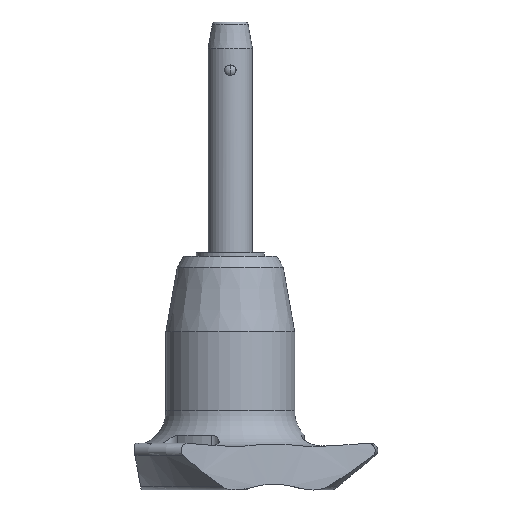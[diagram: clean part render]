
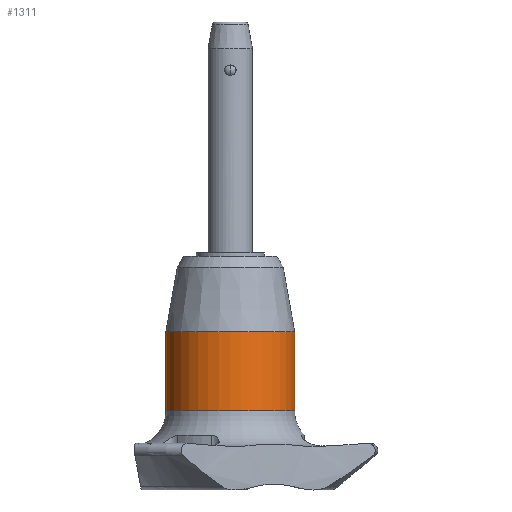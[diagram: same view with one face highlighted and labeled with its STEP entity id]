
A CAD part, front view. The second image highlights one B-rep face of the part: STEP entity #1311.
In plain terms, the highlighted cylindrical face has radius 7.25 mm (diameter 14.5 mm), a partial arc.
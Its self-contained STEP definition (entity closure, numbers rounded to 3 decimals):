
#163 = VERTEX_POINT ( 'NONE', #445 ) ;
#249 = DIRECTION ( 'NONE',  ( -1., 0., 0. ) ) ;
#282 = EDGE_LOOP ( 'NONE', ( #2478, #536, #2099, #1330 ) ) ;
#289 = CARTESIAN_POINT ( 'NONE',  ( -7.25, 0., -37.8 ) ) ;
#445 = CARTESIAN_POINT ( 'NONE',  ( 7.25, 0., -37.8 ) ) ;
#461 = DIRECTION ( 'NONE',  ( 0., 0., -1. ) ) ;
#536 = ORIENTED_EDGE ( 'NONE', *, *, #842, .T. ) ;
#682 = VERTEX_POINT ( 'NONE', #868 ) ;
#690 = DIRECTION ( 'NONE',  ( -1., 0., 0. ) ) ;
#798 = AXIS2_PLACEMENT_3D ( 'NONE', #2084, #1414, #2482 ) ;
#842 = EDGE_CURVE ( 'NONE', #1849, #682, #2219, .T. ) ;
#851 = LINE ( 'NONE', #2253, #1407 ) ;
#868 = CARTESIAN_POINT ( 'NONE',  ( -7.25, 0., -28.9 ) ) ;
#876 = CARTESIAN_POINT ( 'NONE',  ( 0., 0., -37.8 ) ) ;
#1126 = CARTESIAN_POINT ( 'NONE',  ( 0., 0., -28.9 ) ) ;
#1195 = EDGE_CURVE ( 'NONE', #163, #2330, #1871, .T. ) ;
#1311 = ADVANCED_FACE ( 'NONE', ( #1468 ), #1640, .T. ) ;
#1330 = ORIENTED_EDGE ( 'NONE', *, *, #1195, .F. ) ;
#1407 = VECTOR ( 'NONE', #2487, 1000. ) ;
#1414 = DIRECTION ( 'NONE',  ( 0., 0., -1. ) ) ;
#1468 = FACE_OUTER_BOUND ( 'NONE', #282, .T. ) ;
#1640 = CYLINDRICAL_SURFACE ( 'NONE', #798, 7.25 ) ;
#1698 = DIRECTION ( 'NONE',  ( 0., 0., -1. ) ) ;
#1704 = VECTOR ( 'NONE', #1951, 1000. ) ;
#1849 = VERTEX_POINT ( 'NONE', #2369 ) ;
#1871 = CIRCLE ( 'NONE', #2262, 7.25 ) ;
#1951 = DIRECTION ( 'NONE',  ( 0., 0., -1. ) ) ;
#1969 = LINE ( 'NONE', #289, #1704 ) ;
#2008 = EDGE_CURVE ( 'NONE', #682, #2330, #1969, .T. ) ;
#2043 = CARTESIAN_POINT ( 'NONE',  ( -7.25, 0., -37.8 ) ) ;
#2084 = CARTESIAN_POINT ( 'NONE',  ( 0., 0., -37.8 ) ) ;
#2099 = ORIENTED_EDGE ( 'NONE', *, *, #2008, .T. ) ;
#2179 = AXIS2_PLACEMENT_3D ( 'NONE', #1126, #1698, #690 ) ;
#2219 = CIRCLE ( 'NONE', #2179, 7.25 ) ;
#2253 = CARTESIAN_POINT ( 'NONE',  ( 7.25, 0., -37.8 ) ) ;
#2262 = AXIS2_PLACEMENT_3D ( 'NONE', #876, #461, #249 ) ;
#2330 = VERTEX_POINT ( 'NONE', #2043 ) ;
#2369 = CARTESIAN_POINT ( 'NONE',  ( 7.25, 0., -28.9 ) ) ;
#2478 = ORIENTED_EDGE ( 'NONE', *, *, #2644, .F. ) ;
#2482 = DIRECTION ( 'NONE',  ( -1., 0., 0. ) ) ;
#2487 = DIRECTION ( 'NONE',  ( 0., 0., -1. ) ) ;
#2644 = EDGE_CURVE ( 'NONE', #1849, #163, #851, .T. ) ;
